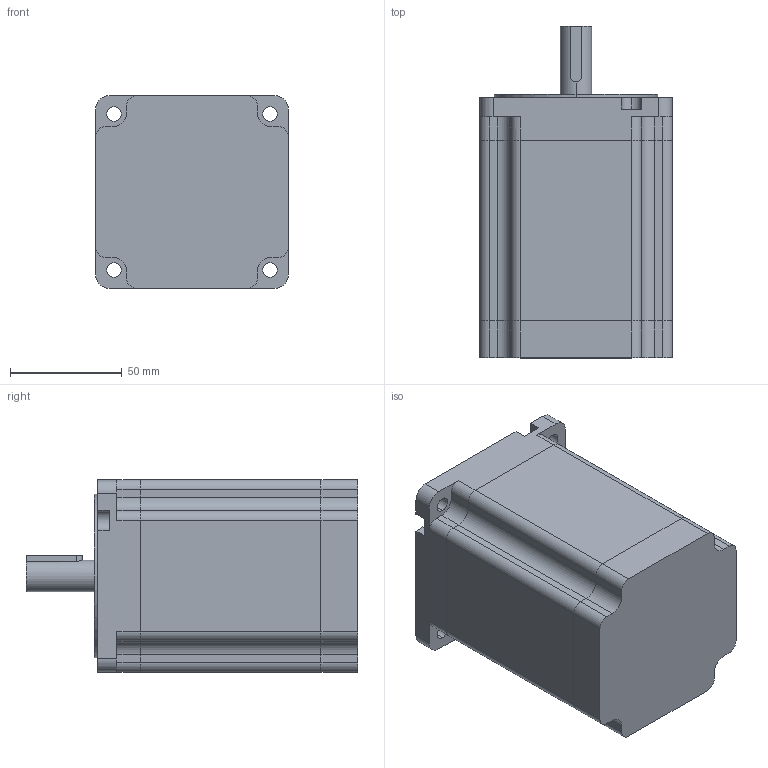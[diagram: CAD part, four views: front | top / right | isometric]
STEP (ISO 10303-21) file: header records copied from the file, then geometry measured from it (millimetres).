
FILE_DESCRIPTION (( 'STEP AP214' ), '1' );
FILE_NAME ('86HS116-K1432-002.STEP', '2020-05-10T01:43:40', ( 'wimxt.com' ), ( 'wimxt.com' ), 'SwSTEP 2.0', 'SolidWorks 2014', '' );
FILE_SCHEMA (( 'AUTOMOTIVE_DESIGN' ));
Length unit declared in the file: millimetre
Products named in the file (5): 86A8瑩; 86A8菁釱; 86A8傷裔; 86A8隅赽; 86HS116-K1432-002
Assembly tree (4 placements, depth 2):
  86HS116-K1432-002
    86A8隅赽
    86A8傷裔
    86A8菁釱
    86A8瑩
Bounding box: 86 x 148.2 x 86 mm (x, y, z)
Volume: 517134.1 mm3; surface area: 102238.8 mm2
Topology: 4 solids, 4 shells, 162 faces, 431 edges, 287 vertices
Faces by surface type: cylinder 84, plane 76, cone 2
Entity records: 5355 total; most frequent: DIRECTION 933, CARTESIAN_POINT 925, ORIENTED_EDGE 862, EDGE_CURVE 431, AXIS2_PLACEMENT_3D 337, VERTEX_POINT 287, VECTOR 259, LINE 259
